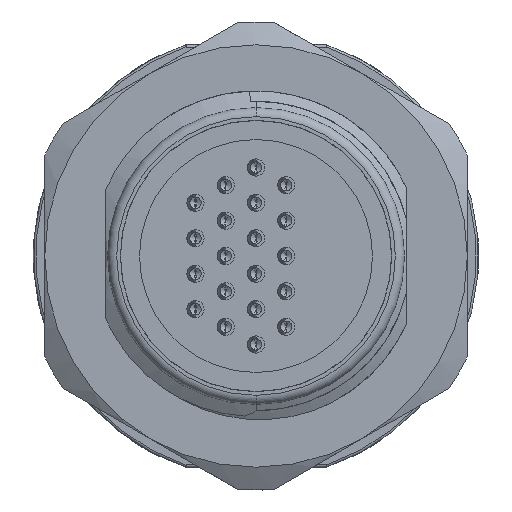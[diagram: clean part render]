
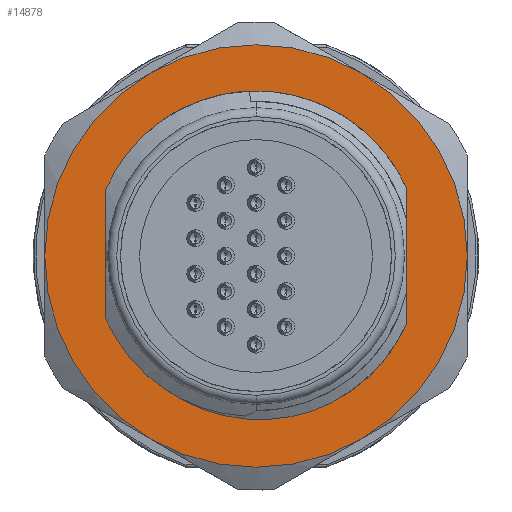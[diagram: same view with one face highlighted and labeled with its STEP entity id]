
A CAD part, left-side view. The second image highlights one B-rep face of the part: STEP entity #14878.
In plain terms, the highlighted planar face has unit normal (-1, 0, 0).
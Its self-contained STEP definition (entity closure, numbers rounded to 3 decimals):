
#2457=CARTESIAN_POINT('',(3.4,22.208,-22.407));
#2458=DIRECTION('',(1.,0.,0.));
#2459=DIRECTION('',(0.,0.771,0.637));
#2460=AXIS2_PLACEMENT_3D('',#2457,#2458,#2459);
#2508=CARTESIAN_POINT('',(3.4,17.254,-35.981));
#2509=CARTESIAN_POINT('',(3.4,17.915,-36.204));
#2510=CARTESIAN_POINT('',(3.4,19.251,-36.551));
#2511=CARTESIAN_POINT('',(3.4,21.322,-36.78));
#2512=CARTESIAN_POINT('',(3.4,23.388,-36.709));
#2513=CARTESIAN_POINT('',(3.4,25.422,-36.342));
#2514=CARTESIAN_POINT('',(3.4,27.379,-35.686));
#2515=CARTESIAN_POINT('',(3.4,29.208,-34.763));
#2516=CARTESIAN_POINT('',(3.4,30.892,-33.58));
#2517=CARTESIAN_POINT('',(3.4,32.372,-32.18));
#2518=CARTESIAN_POINT('',(3.4,33.64,-30.577));
#2519=CARTESIAN_POINT('',(3.4,34.658,-28.811));
#2520=CARTESIAN_POINT('',(3.4,35.154,-27.563));
#2521=CARTESIAN_POINT('',(3.4,35.358,-26.917));
#2546=CARTESIAN_POINT('',(3.4,35.358,-18.596));
#2547=CARTESIAN_POINT('',(3.4,35.169,-17.999));
#2548=CARTESIAN_POINT('',(3.4,34.713,-16.845));
#2549=CARTESIAN_POINT('',(3.4,33.8,-15.219));
#2550=CARTESIAN_POINT('',(3.4,33.056,-14.237));
#2551=CARTESIAN_POINT('',(3.4,32.649,-13.77));
#2572=DIRECTION('',(0.,0.,1.));
#2573=VECTOR('',#2572,8.321);
#2574=CARTESIAN_POINT('',(3.4,35.358,-26.917));
#2575=LINE('',#2574,#2573);
#2587=CARTESIAN_POINT('',(3.4,22.208,-22.407));
#2588=DIRECTION('',(-1.,0.,0.));
#2589=DIRECTION('',(0.,-1.,0.));
#2590=AXIS2_PLACEMENT_3D('',#2587,#2588,#2589);
#2592=CARTESIAN_POINT('',(3.4,22.208,-22.407));
#2593=DIRECTION('',(-1.,0.,0.));
#2594=DIRECTION('',(0.,-0.5,-0.866));
#2595=AXIS2_PLACEMENT_3D('',#2592,#2593,#2594);
#2597=CARTESIAN_POINT('',(3.4,22.208,-22.407));
#2598=DIRECTION('',(-1.,0.,0.));
#2599=DIRECTION('',(0.,0.5,-0.866));
#2600=AXIS2_PLACEMENT_3D('',#2597,#2598,#2599);
#2602=CARTESIAN_POINT('',(3.4,22.208,-22.407));
#2603=DIRECTION('',(-1.,0.,0.));
#2604=DIRECTION('',(0.,1.,0.));
#2605=AXIS2_PLACEMENT_3D('',#2602,#2603,#2604);
#2607=CARTESIAN_POINT('',(3.4,22.208,-22.407));
#2608=DIRECTION('',(-1.,0.,0.));
#2609=DIRECTION('',(0.,0.5,0.866));
#2610=AXIS2_PLACEMENT_3D('',#2607,#2608,#2609);
#2612=CARTESIAN_POINT('',(3.4,22.208,-22.407));
#2613=DIRECTION('',(-1.,0.,0.));
#2614=DIRECTION('',(0.,-0.5,0.866));
#2615=AXIS2_PLACEMENT_3D('',#2612,#2613,#2614);
#2644=CARTESIAN_POINT('',(3.4,9.305,-28.911));
#2645=CARTESIAN_POINT('',(3.4,9.592,-29.482));
#2646=CARTESIAN_POINT('',(3.4,10.235,-30.571));
#2647=CARTESIAN_POINT('',(3.4,11.422,-32.084));
#2648=CARTESIAN_POINT('',(3.4,12.751,-33.382));
#2649=CARTESIAN_POINT('',(3.4,14.17,-34.457));
#2650=CARTESIAN_POINT('',(3.4,15.667,-35.329));
#2651=CARTESIAN_POINT('',(3.4,16.717,-35.785));
#2652=CARTESIAN_POINT('',(3.4,17.254,-35.981));
#2690=CARTESIAN_POINT('',(3.4,29.568,-11.03));
#2691=CARTESIAN_POINT('',(3.4,29.024,-10.658));
#2692=CARTESIAN_POINT('',(3.4,27.896,-10.002));
#2693=CARTESIAN_POINT('',(3.4,26.068,-9.266));
#2694=CARTESIAN_POINT('',(3.4,24.174,-8.803));
#2695=CARTESIAN_POINT('',(3.4,22.205,-8.611));
#2696=CARTESIAN_POINT('',(3.4,20.205,-8.704));
#2697=CARTESIAN_POINT('',(3.4,18.167,-9.105));
#2698=CARTESIAN_POINT('',(3.4,16.194,-9.815));
#2699=CARTESIAN_POINT('',(3.4,14.356,-10.809));
#2700=CARTESIAN_POINT('',(3.4,12.681,-12.072));
#2701=CARTESIAN_POINT('',(3.4,11.22,-13.558));
#2702=CARTESIAN_POINT('',(3.4,9.979,-15.27));
#2703=CARTESIAN_POINT('',(3.4,9.336,-16.51));
#2704=CARTESIAN_POINT('',(3.4,9.058,-17.159));
#2726=CARTESIAN_POINT('',(3.4,9.058,-28.362));
#2727=CARTESIAN_POINT('',(3.4,9.097,-28.454));
#2728=CARTESIAN_POINT('',(3.4,9.177,-28.637));
#2729=CARTESIAN_POINT('',(3.4,9.262,-28.82));
#2730=CARTESIAN_POINT('',(3.4,9.305,-28.911));
#2797=DIRECTION('',(0.,0.,1.));
#2798=VECTOR('',#2797,11.203);
#2799=CARTESIAN_POINT('',(3.4,9.058,-28.362));
#2800=LINE('',#2799,#2798);
#2855=CARTESIAN_POINT('',(3.4,12.958,-6.385));
#2937=CARTESIAN_POINT('',(3.4,12.958,-38.428));
#2994=CARTESIAN_POINT('',(3.4,31.458,-38.428));
#3012=CARTESIAN_POINT('',(3.4,40.708,-22.407));
#3022=CARTESIAN_POINT('',(3.4,3.708,-22.407));
#3046=CARTESIAN_POINT('',(3.4,31.458,-6.385));
#11016=VERTEX_POINT('',#2937);
#11017=VERTEX_POINT('',#2994);
#11018=VERTEX_POINT('',#3012);
#11019=VERTEX_POINT('',#3046);
#11020=VERTEX_POINT('',#2855);
#11021=VERTEX_POINT('',#3022);
#12045=CARTESIAN_POINT('',(3.4,32.649,-13.77));
#12046=CARTESIAN_POINT('',(3.4,29.568,-11.03));
#12047=VERTEX_POINT('',#12045);
#12048=VERTEX_POINT('',#12046);
#12049=CARTESIAN_POINT('',(3.4,35.358,-26.917));
#12050=CARTESIAN_POINT('',(3.4,35.358,-18.596));
#12051=VERTEX_POINT('',#12049);
#12052=VERTEX_POINT('',#12050);
#12053=VERTEX_POINT('',#2704);
#12054=VERTEX_POINT('',#2726);
#12055=VERTEX_POINT('',#2730);
#12056=VERTEX_POINT('',#2652);
#14845=CARTESIAN_POINT('',(3.4,22.208,-22.407));
#14846=DIRECTION('',(-1.,0.,0.));
#14847=DIRECTION('',(0.,1.,0.));
#14848=AXIS2_PLACEMENT_3D('',#14845,#14846,#14847);
#14849=PLANE('',#14848);
#14851=ORIENTED_EDGE('',*,*,#14850,.F.);
#14853=ORIENTED_EDGE('',*,*,#14852,.F.);
#14855=ORIENTED_EDGE('',*,*,#14854,.F.);
#14857=ORIENTED_EDGE('',*,*,#14856,.F.);
#14859=ORIENTED_EDGE('',*,*,#14858,.F.);
#14861=ORIENTED_EDGE('',*,*,#14860,.F.);
#14862=EDGE_LOOP('',(#14851,#14853,#14855,#14857,#14859,#14861));
#14863=FACE_OUTER_BOUND('',#14862,.F.);
#14864=ORIENTED_EDGE('',*,*,#14529,.F.);
#14865=ORIENTED_EDGE('',*,*,#14794,.F.);
#14866=ORIENTED_EDGE('',*,*,#14830,.F.);
#14867=ORIENTED_EDGE('',*,*,#14704,.F.);
#14869=ORIENTED_EDGE('',*,*,#14868,.F.);
#14871=ORIENTED_EDGE('',*,*,#14870,.F.);
#14873=ORIENTED_EDGE('',*,*,#14872,.T.);
#14875=ORIENTED_EDGE('',*,*,#14874,.F.);
#14876=EDGE_LOOP('',(#14864,#14865,#14866,#14867,#14869,#14871,#14873,#14875));
#14877=FACE_BOUND('',#14876,.F.);
#2461=CIRCLE('',#2460,13.55);
#2522=B_SPLINE_CURVE_WITH_KNOTS('',3,(#2508,#2509,#2510,#2511,#2512,#2513,#2514,
#2515,#2516,#2517,#2518,#2519,#2520,#2521),.UNSPECIFIED.,.F.,.F.,(4,1,1,1,1,1,1,
1,1,1,1,4),(0.,0.091,0.182,0.273,
0.364,0.455,0.545,0.636,
0.727,0.818,0.909,1.),.UNSPECIFIED.);
#2552=B_SPLINE_CURVE_WITH_KNOTS('',3,(#2546,#2547,#2548,#2549,#2550,#2551),
.UNSPECIFIED.,.F.,.F.,(4,1,1,4),(0.,0.333,0.667,1.),
.UNSPECIFIED.);
#2591=CIRCLE('',#2590,18.5);
#2596=CIRCLE('',#2595,18.5);
#2601=CIRCLE('',#2600,18.5);
#2606=CIRCLE('',#2605,18.5);
#2611=CIRCLE('',#2610,18.5);
#2616=CIRCLE('',#2615,18.5);
#2653=B_SPLINE_CURVE_WITH_KNOTS('',3,(#2644,#2645,#2646,#2647,#2648,#2649,#2650,
#2651,#2652),.UNSPECIFIED.,.F.,.F.,(4,1,1,1,1,1,4),(0.,0.167,
0.333,0.5,0.667,0.833,1.),
.UNSPECIFIED.);
#2705=B_SPLINE_CURVE_WITH_KNOTS('',3,(#2690,#2691,#2692,#2693,#2694,#2695,#2696,
#2697,#2698,#2699,#2700,#2701,#2702,#2703,#2704),.UNSPECIFIED.,.F.,.F.,(4,1,1,1,
1,1,1,1,1,1,1,1,4),(0.,0.083,0.167,0.25,
0.333,0.417,0.5,0.583,0.667,
0.75,0.833,0.917,1.),.UNSPECIFIED.);
#2731=B_SPLINE_CURVE_WITH_KNOTS('',3,(#2726,#2727,#2728,#2729,#2730),
.UNSPECIFIED.,.F.,.F.,(4,1,4),(0.,0.5,1.),.UNSPECIFIED.);
#14529=EDGE_CURVE('',#12047,#12048,#2461,.T.);
#14704=EDGE_CURVE('',#12056,#12051,#2522,.T.);
#14794=EDGE_CURVE('',#12052,#12047,#2552,.T.);
#14830=EDGE_CURVE('',#12051,#12052,#2575,.T.);
#14850=EDGE_CURVE('',#11021,#11020,#2591,.T.);
#14852=EDGE_CURVE('',#11016,#11021,#2596,.T.);
#14854=EDGE_CURVE('',#11017,#11016,#2601,.T.);
#14856=EDGE_CURVE('',#11018,#11017,#2606,.T.);
#14858=EDGE_CURVE('',#11019,#11018,#2611,.T.);
#14860=EDGE_CURVE('',#11020,#11019,#2616,.T.);
#14868=EDGE_CURVE('',#12055,#12056,#2653,.T.);
#14870=EDGE_CURVE('',#12054,#12055,#2731,.T.);
#14872=EDGE_CURVE('',#12054,#12053,#2800,.T.);
#14874=EDGE_CURVE('',#12048,#12053,#2705,.T.);
#14878=ADVANCED_FACE('',(#14863,#14877),#14849,.T.);
